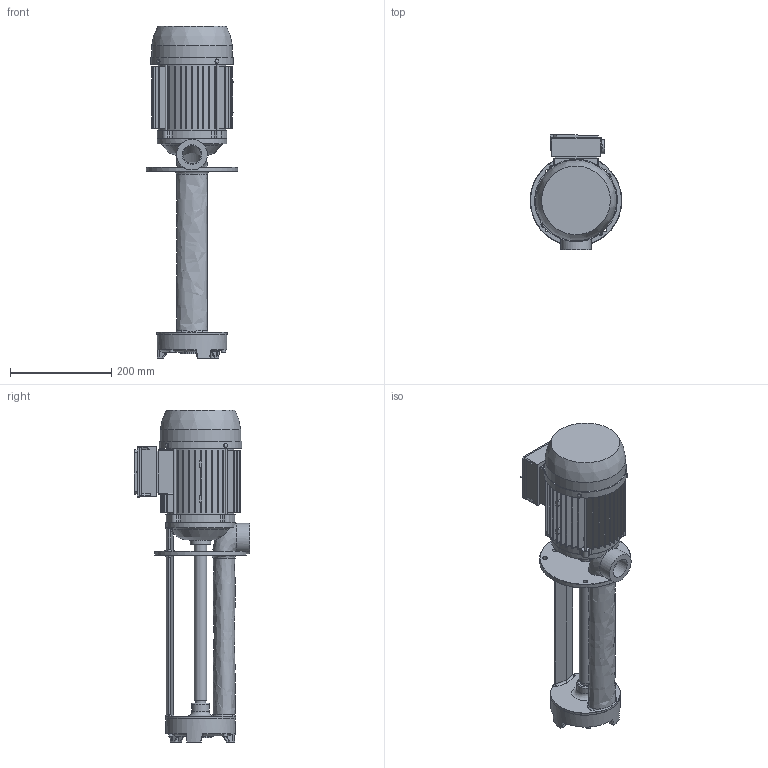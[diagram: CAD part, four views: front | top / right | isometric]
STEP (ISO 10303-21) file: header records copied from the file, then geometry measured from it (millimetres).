
FILE_DESCRIPTION(/* description */ (''),/* implementation_level */ '2;1');
FILE_NAME(/* name */ 'P:\3D PER CLIENTI\POMPE\SP\YT80SPB++350.stp',/* time_stamp */ '2019-05-27T09:23:07+02:00',/* author */ ('vgiaretta'),/* organization */ (''),/* preprocessor_version */ 'ST-DEVELOPER v17.2',/* originating_system */ 'Autodesk Inventor 2019',/* authorisation */ '');
FILE_SCHEMA (('AUTOMOTIVE_DESIGN { 1 0 10303 214 3 1 1 }'));
Length unit declared in the file: millimetre
Products named in the file (1): YT80SPB++350
Bounding box: 180.26 x 227.93 x 654.48 mm (x, y, z)
Volume: 5989370.9 mm3; surface area: 576102 mm2
Topology: 1 solids, 1 shells, 1066 faces, 2883 edges, 1904 vertices
Faces by surface type: plane 527, cylinder 409, bspline 85, torus 20, sphere 14, cone 11
Full cylindrical faces by diameter (mm): 4.38 x4, 8 x3, 9 x4, 18.6 x1, 20 x1, 23.5 x1, 24.8 x2, 28.3 x1, 28.4 x1, 34 x1, 36.4 x1, 38.952 x1, 41 x1, 44.6 x1, 60.4 x1, 133.8 x1, 136.5 x1, 137 x1, 138 x1, 158.99 x1, 180.26 x1
Entity records: 40793 total; most frequent: CARTESIAN_POINT 13387, ORIENTED_EDGE 5770, DIRECTION 4983, EDGE_CURVE 2885, VERTEX_POINT 1904, AXIS2_PLACEMENT_3D 1689, LINE 1605, VECTOR 1605
